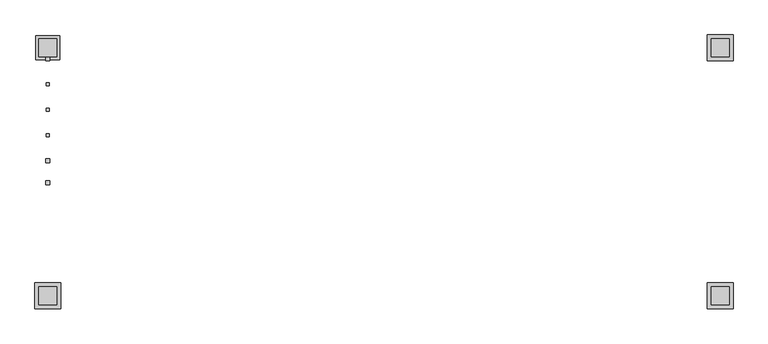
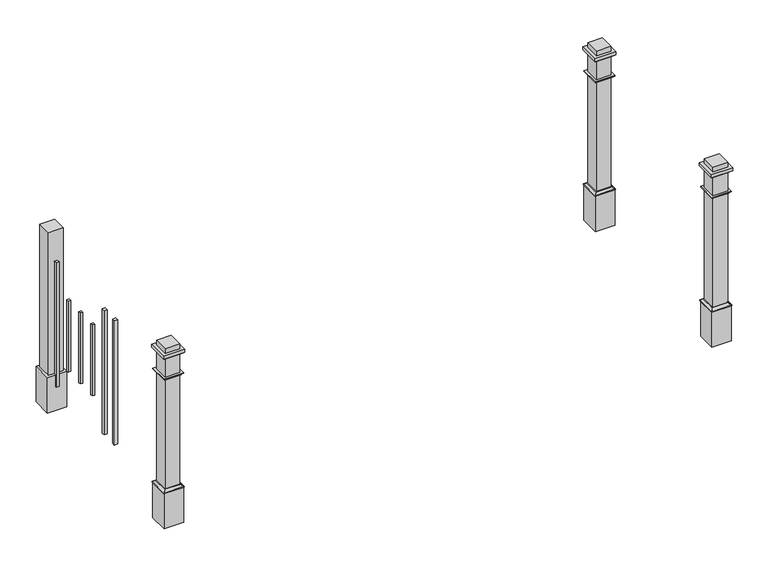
"""IFC4 building model written with IfcOpenShell, lengths in millimetres: railing geometry, Deco Type."""

from ifc_helpers import new_model, si_unit, frame, origin, origin_with_axes, place, context, project, spatial, polyline, ellipse_curve, outline, extrude, faceted_brep, source, transform, mapped, element, save
from ifc_brep_helpers import plane_surface, revolved_surface, advanced_brep


def railing_9e280cb1(model_context):
    return source(origin(), model_context, "Body", "SolidModel", [
        extrude(outline(polyline([(-11222.3625398, -8830.3466946), (-11196.9625398, -8830.3466946), (-11196.9625398, -8855.7466946), (-11222.3625398, -8855.7466946), (-11222.3625398, -8830.3466946)])), origin_with_axes(), (0.0, 0.0, 1.0), 1066.8),
        extrude(outline(polyline([(-11222.3625398, -8685.5106652), (-11196.9625398, -8685.5106652), (-11196.9625398, -8710.9106652), (-11222.3625398, -8710.9106652), (-11222.3625398, -8685.5106652)])), origin_with_axes(), (0.0, 0.0, 1.0), 1066.8),
        extrude(outline(polyline([(-11219.1875398, -8519.7102976), (-11200.1375398, -8519.7102976), (-11200.1375398, -8538.7602976), (-11219.1875398, -8538.7602976), (-11219.1875398, -8519.7102976)])), frame((0.0, 0.0, 228.6), z_axis=(0.0, 0.0, 1.0), x_axis=(1.0, 0.0, 0.0)), (0.0, 0.0, 1.0), 609.6),
        extrude(outline(polyline([(-11219.1875398, -8350.7349299), (-11200.1375398, -8350.7349299), (-11200.1375398, -8369.7849299), (-11219.1875398, -8369.7849299), (-11219.1875398, -8350.7349299)])), frame((0.0, 0.0, 228.6), z_axis=(0.0, 0.0, 1.0), x_axis=(1.0, 0.0, 0.0)), (0.0, 0.0, 1.0), 609.6),
        extrude(outline(polyline([(-11219.1875398, -8181.7595623), (-11200.1375398, -8181.7595623), (-11200.1375398, -8200.8095623), (-11219.1875398, -8200.8095623), (-11219.1875398, -8181.7595623)])), frame((0.0, 0.0, 228.6), z_axis=(0.0, 0.0, 1.0), x_axis=(1.0, 0.0, 0.0)), (0.0, 0.0, 1.0), 609.6),
        extrude(outline(polyline([(-11222.3625398, -8009.6091946), (-11196.9625398, -8009.6091946), (-11196.9625398, -8035.0091946), (-11222.3625398, -8035.0091946), (-11222.3625398, -8009.6091946)])), origin_with_axes(), (0.0, 0.0, 1.0), 1066.8),
        extrude(outline(polyline([(-6836.1000398, -9511.9911799), (-6677.3500398, -9511.9911799), (-6677.3500398, -9670.7411799), (-6836.1000398, -9670.7411799), (-6836.1000398, -9511.9911799)])), frame((0.0, 0.0, -203.2), z_axis=(0.0, 0.0, 1.0), x_axis=(1.0, 0.0, 0.0)), (0.0, 0.0, 1.0), 304.8),
        extrude(outline(polyline([(-6817.0500398, -9531.0411799), (-6696.4000398, -9531.0411799), (-6696.4000398, -9651.6911799), (-6817.0500398, -9651.6911799), (-6817.0500398, -9531.0411799)])), frame((0.0, 0.0, 101.6), z_axis=(0.0, 0.0, 1.0), x_axis=(1.0, 0.0, 0.0)), (0.0, 0.0, 1.0), 1225.55),
        extrude(outline(polyline([(-6842.4500398, -9677.0911799), (-6842.4500398, -9505.6411799), (-6671.0000398, -9505.6411799), (-6671.0000398, -9677.0911799), (-6842.4500398, -9677.0911799)]), holes=[polyline([(-6696.4000398, -9651.6911799), (-6696.4000398, -9531.0411799), (-6817.0500398, -9531.0411799), (-6817.0500398, -9651.6911799), (-6696.4000398, -9651.6911799)])]), frame((0.0, 0.0, 1260.475), z_axis=(0.0, 0.0, 1.0), x_axis=(1.0, 0.0, 0.0)), (0.0, 0.0, 1.0), 25.4),
        advanced_brep(
        [(-6817.0500398, -9651.6911799, 101.6), (-6817.0500398, -9651.6911799, 123.825), (-6696.4000398, -9651.6911799, 123.825), (-6696.4000398, -9651.6911799, 101.6), (-6839.2750398, -9673.9161799, 107.95), (-6839.2750398, -9673.9161799, 101.6), (-6674.1750398, -9673.9161799, 101.6), (-6674.1750398, -9673.9161799, 107.95), (-6823.4000398, -9658.0411799, 123.825), (-6690.0500398, -9658.0411799, 123.825), (-6696.4000398, -9531.0411799, 123.825), (-6696.4000398, -9531.0411799, 101.6), (-6674.1750398, -9508.8161799, 101.6), (-6674.1750398, -9508.8161799, 107.95), (-6690.0500398, -9524.6911799, 123.825), (-6817.0500398, -9531.0411799, 123.825), (-6817.0500398, -9531.0411799, 101.6), (-6839.2750398, -9508.8161799, 101.6), (-6839.2750398, -9508.8161799, 107.95), (-6823.4000398, -9524.6911799, 123.825)],
        [
            (0, 1),
            (1, 2),
            (2, 3),
            (3, 0),
            (4, 5),
            (5, 6),
            (6, 7),
            (7, 4),
            (8, 4, ellipse_curve(frame((-6839.2750398, -9673.9161799, 123.825), z_axis=(-0.7071067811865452, 0.7071067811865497, 0.0), x_axis=(0.7071067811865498, 0.7071067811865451, 0.0)), 22.4506403, 15.875)),
            (7, 9, ellipse_curve(frame((-6674.1750398, -9673.9161799, 123.825), z_axis=(0.7071067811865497, 0.7071067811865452, 0.0), x_axis=(0.7071067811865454, -0.7071067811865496, 0.0)), 22.4506403, 15.875)),
            (9, 8),
            (2, 10),
            (10, 11),
            (11, 3),
            (6, 12),
            (12, 13),
            (13, 7),
            (13, 14, ellipse_curve(frame((-6674.1750398, -9508.8161799, 123.825), z_axis=(-0.7071067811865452, 0.7071067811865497, 0.0), x_axis=(0.7071067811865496, 0.7071067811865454, 0.0)), 22.4506403, 15.875)),
            (14, 9),
            (10, 15),
            (15, 16),
            (16, 11),
            (12, 17),
            (17, 18),
            (18, 13),
            (18, 19, ellipse_curve(frame((-6839.2750398, -9508.8161799, 123.825), z_axis=(-0.7071067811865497, -0.7071067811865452, 0.0), x_axis=(-0.7071067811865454, 0.7071067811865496, 0.0)), 22.4506403, 15.875)),
            (19, 14),
            (15, 1),
            (0, 16),
            (5, 17),
            (4, 18),
            (8, 19),
        ],
        [
            plane_surface(frame((-6817.0500398, -9651.6911799, 123.825), z_axis=(0.0, 1.0, 0.0), x_axis=(1.0, 0.0, 0.0))),
            plane_surface(frame((-6839.2750398, -9673.9161799, 101.6), z_axis=(0.0, -1.0, 0.0), x_axis=(1.0, 0.0, 0.0))),
            revolved_surface(polyline([(-6658.30003980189, -9658.0411799, 123.825), (-6855.15003979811, -9658.0411799, 123.825)]), (-6817.0500398, -9673.9161799, 123.825), (1.0, 0.0, 0.0)),
            plane_surface(frame((-6696.4000398, -9651.6911799, 123.825), z_axis=(-1.0, 0.0, 0.0), x_axis=(0.0, 1.0, 0.0))),
            plane_surface(frame((-6674.1750398, -9673.9161799, 101.6), z_axis=(1.0, 0.0, 0.0), x_axis=(0.0, 1.0, 0.0))),
            revolved_surface(polyline([(-6690.0500398, -9492.94117990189, 123.825), (-6690.0500398, -9689.79117989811, 123.825)]), (-6674.1750398, -9651.6911799, 123.825), (0.0, 1.0, 0.0)),
            plane_surface(frame((-6696.4000398, -9531.0411799, 123.825), z_axis=(0.0, -1.0, 0.0), x_axis=(-1.0, 0.0, 0.0))),
            plane_surface(frame((-6674.1750398, -9508.8161799, 101.6), z_axis=(0.0, 1.0, 0.0), x_axis=(-1.0, 0.0, 0.0))),
            revolved_surface(polyline([(-6855.15003979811, -9524.6911799, 123.825), (-6658.30003980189, -9524.6911799, 123.825)]), (-6696.4000398, -9508.8161799, 123.825), (-1.0, 0.0, 0.0)),
            plane_surface(frame((-6817.0500398, -9531.0411799, 123.825), z_axis=(1.0, 0.0, 0.0), x_axis=(0.0, -1.0, 0.0))),
            plane_surface(frame((-6817.0500398, -9531.0411799, 101.6), z_axis=(0.0, 0.0, -1.0), x_axis=(0.0, -1.0, 0.0))),
            plane_surface(frame((-6839.2750398, -9508.8161799, 101.6), z_axis=(-1.0, 0.0, 0.0), x_axis=(0.0, -1.0, 0.0))),
            revolved_surface(polyline([(-6823.4000398, -9689.79117989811, 123.825), (-6823.4000398, -9492.94117990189, 123.825)]), (-6839.2750398, -9531.0411799, 123.825), (0.0, -1.0, 0.0)),
            plane_surface(frame((-6823.4000398, -9524.6911799, 123.825), z_axis=(0.0, 0.0, 1.0), x_axis=(0.0, -1.0, 0.0))),
        ],
        [
            (0, [[1, 2, 3, 4]]),
            (1, [[5, 6, 7, 8]]),
            (2, [[9, -8, 10, 11]]),
            (3, [[-3, 12, 13, 14]]),
            (4, [[-7, 15, 16, 17]]),
            (5, [[-10, -17, 18, 19]]),
            (6, [[-13, 20, 21, 22]]),
            (7, [[-16, 23, 24, 25]]),
            (8, [[-18, -25, 26, 27]]),
            (9, [[-21, 28, -1, 29]]),
            (10, [[30, -23, -15, -6], [-14, -22, -29, -4]]),
            (11, [[-24, -30, -5, 31]]),
            (12, [[-26, -31, -9, 32]]),
            (13, [[-19, -27, -32, -11], [-28, -20, -12, -2]]),
        ],
    ),
        advanced_brep(
        [(-6817.0500398, -9651.6911799, 1063.625), (-6817.0500398, -9651.6911799, 1082.675), (-6696.4000398, -9651.6911799, 1082.675), (-6696.4000398, -9651.6911799, 1063.625), (-6836.1000398, -9670.7411799, 1076.325), (-6823.4000398, -9658.0411799, 1063.625), (-6690.0500398, -9658.0411799, 1063.625), (-6677.3500398, -9670.7411799, 1076.325), (-6836.1000398, -9670.7411799, 1082.675), (-6677.3500398, -9670.7411799, 1082.675), (-6696.4000398, -9531.0411799, 1082.675), (-6696.4000398, -9531.0411799, 1063.625), (-6690.0500398, -9524.6911799, 1063.625), (-6677.3500398, -9511.9911799, 1076.325), (-6677.3500398, -9511.9911799, 1082.675), (-6817.0500398, -9531.0411799, 1082.675), (-6817.0500398, -9531.0411799, 1063.625), (-6823.4000398, -9524.6911799, 1063.625), (-6836.1000398, -9511.9911799, 1076.325), (-6836.1000398, -9511.9911799, 1082.675)],
        [
            (0, 1),
            (1, 2),
            (2, 3),
            (3, 0),
            (4, 5, ellipse_curve(frame((-6836.1000398, -9670.7411799, 1063.625), z_axis=(-0.7071067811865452, 0.7071067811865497, 0.0), x_axis=(0.7071067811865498, 0.7071067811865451, 0.0)), 17.9605122, 12.7)),
            (5, 6),
            (6, 7, ellipse_curve(frame((-6677.3500398, -9670.7411799, 1063.625), z_axis=(0.7071067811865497, 0.7071067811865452, 0.0), x_axis=(0.7071067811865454, -0.7071067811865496, 0.0)), 17.9605122, 12.7)),
            (7, 4),
            (8, 4),
            (7, 9),
            (9, 8),
            (2, 10),
            (10, 11),
            (11, 3),
            (6, 12),
            (12, 13, ellipse_curve(frame((-6677.3500398, -9511.9911799, 1063.625), z_axis=(-0.7071067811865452, 0.7071067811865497, 0.0), x_axis=(0.7071067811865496, 0.7071067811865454, 0.0)), 17.9605122, 12.7)),
            (13, 7),
            (13, 14),
            (14, 9),
            (10, 15),
            (15, 16),
            (16, 11),
            (12, 17),
            (17, 18, ellipse_curve(frame((-6836.1000398, -9511.9911799, 1063.625), z_axis=(-0.7071067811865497, -0.7071067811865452, 0.0), x_axis=(-0.7071067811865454, 0.7071067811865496, 0.0)), 17.9605122, 12.7)),
            (18, 13),
            (18, 19),
            (19, 14),
            (19, 8),
            (1, 15),
            (0, 16),
            (5, 17),
            (4, 18),
        ],
        [
            plane_surface(frame((-6817.0500398, -9651.6911799, 1082.675), z_axis=(0.0, 1.0, 0.0), x_axis=(1.0, 0.0, 0.0))),
            revolved_surface(polyline([(-6664.650039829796, -9658.0411799, 1063.625), (-6848.8000397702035, -9658.0411799, 1063.625)]), (-6817.0500398, -9670.7411799, 1063.625), (1.0, 0.0, 0.0)),
            plane_surface(frame((-6836.1000398, -9670.7411799, 1076.325), z_axis=(0.0, -1.0, 0.0), x_axis=(1.0, 0.0, 0.0))),
            plane_surface(frame((-6696.4000398, -9651.6911799, 1082.675), z_axis=(-1.0, 0.0, 0.0), x_axis=(0.0, 1.0, 0.0))),
            revolved_surface(polyline([(-6690.0500397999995, -9499.291179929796, 1063.625), (-6690.0500397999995, -9683.441179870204, 1063.625)]), (-6677.3500398, -9651.6911799, 1063.625), (0.0, 1.0, 0.0)),
            plane_surface(frame((-6677.3500398, -9670.7411799, 1076.325), z_axis=(1.0, 0.0, 0.0), x_axis=(0.0, 1.0, 0.0))),
            plane_surface(frame((-6696.4000398, -9531.0411799, 1082.675), z_axis=(0.0, -1.0, 0.0), x_axis=(-1.0, 0.0, 0.0))),
            revolved_surface(polyline([(-6848.8000397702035, -9524.6911799, 1063.625), (-6664.650039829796, -9524.6911799, 1063.625)]), (-6696.4000398, -9511.9911799, 1063.625), (-1.0, 0.0, 0.0)),
            plane_surface(frame((-6677.3500398, -9511.9911799, 1076.325), z_axis=(0.0, 1.0, 0.0), x_axis=(-1.0, 0.0, 0.0))),
            plane_surface(frame((-6836.1000398, -9511.9911799, 1082.675), z_axis=(0.0, 0.0, 1.0), x_axis=(0.0, -1.0, 0.0))),
            plane_surface(frame((-6817.0500398, -9531.0411799, 1082.675), z_axis=(1.0, 0.0, 0.0), x_axis=(0.0, -1.0, 0.0))),
            plane_surface(frame((-6817.0500398, -9531.0411799, 1063.625), z_axis=(0.0, 0.0, -1.0), x_axis=(0.0, -1.0, 0.0))),
            revolved_surface(polyline([(-6823.4000398, -9683.441179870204, 1063.625), (-6823.4000398, -9499.291179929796, 1063.625)]), (-6836.1000398, -9531.0411799, 1063.625), (0.0, -1.0, 0.0)),
            plane_surface(frame((-6836.1000398, -9511.9911799, 1076.325), z_axis=(-1.0, 0.0, 0.0), x_axis=(0.0, -1.0, 0.0))),
        ],
        [
            (0, [[1, 2, 3, 4]]),
            (1, [[5, 6, 7, 8]]),
            (2, [[9, -8, 10, 11]]),
            (3, [[-3, 12, 13, 14]]),
            (4, [[-7, 15, 16, 17]]),
            (5, [[-10, -17, 18, 19]]),
            (6, [[-13, 20, 21, 22]]),
            (7, [[-16, 23, 24, 25]]),
            (8, [[-18, -25, 26, 27]]),
            (9, [[-19, -27, 28, -11], [29, -20, -12, -2]]),
            (10, [[-21, -29, -1, 30]]),
            (11, [[31, -23, -15, -6], [-14, -22, -30, -4]]),
            (12, [[-24, -31, -5, 32]]),
            (13, [[-26, -32, -9, -28]]),
        ],
    ),
        faceted_brep([(-6817.0500398, -9651.6911799, 1241.425), (-6817.0500398, -9651.6911799, 1260.475), (-6696.4000398, -9651.6911799, 1260.475), (-6696.4000398, -9651.6911799, 1241.425), (-6823.4000398, -9658.0411799, 1254.125), (-6823.4000398, -9658.0411799, 1241.425), (-6690.0500398, -9658.0411799, 1241.425), (-6690.0500398, -9658.0411799, 1254.125), (-6836.1000398, -9670.7411799, 1260.475), (-6836.1000398, -9670.7411799, 1254.125), (-6677.3500398, -9670.7411799, 1254.125), (-6677.3500398, -9670.7411799, 1260.475), (-6696.4000398, -9531.0411799, 1260.475), (-6696.4000398, -9531.0411799, 1241.425), (-6690.0500398, -9524.6911799, 1241.425), (-6690.0500398, -9524.6911799, 1254.125), (-6677.3500398, -9511.9911799, 1254.125), (-6677.3500398, -9511.9911799, 1260.475), (-6817.0500398, -9531.0411799, 1260.475), (-6817.0500398, -9531.0411799, 1241.425), (-6823.4000398, -9524.6911799, 1241.425), (-6823.4000398, -9524.6911799, 1254.125), (-6836.1000398, -9511.9911799, 1254.125), (-6836.1000398, -9511.9911799, 1260.475)], [[[0, 1, 2, 3]], [[4, 5, 6, 7]], [[8, 9, 10, 11]], [[3, 2, 12, 13]], [[7, 6, 14, 15]], [[11, 10, 16, 17]], [[13, 12, 18, 19]], [[15, 14, 20, 21]], [[17, 16, 22, 23]], [[19, 18, 1, 0]], [[5, 20, 14, 6], [3, 13, 19, 0]], [[21, 20, 5, 4]], [[9, 22, 16, 10], [7, 15, 21, 4]], [[23, 22, 9, 8]], [[11, 17, 23, 8], [1, 18, 12, 2]]]),
        extrude(outline(polyline([(-11130.2875398, -9511.9911799), (-11130.2875398, -9670.7411799), (-11289.0375398, -9670.7411799), (-11289.0375398, -9511.9911799), (-11130.2875398, -9511.9911799)])), frame((0.0, 0.0, -203.2), z_axis=(0.0, 0.0, 1.0), x_axis=(1.0, 0.0, 0.0)), (0.0, 0.0, 1.0), 304.8),
        extrude(outline(polyline([(-11149.3375398, -9531.0411799), (-11149.3375398, -9651.6911799), (-11269.9875398, -9651.6911799), (-11269.9875398, -9531.0411799), (-11149.3375398, -9531.0411799)])), frame((0.0, 0.0, 101.6), z_axis=(0.0, 0.0, 1.0), x_axis=(1.0, 0.0, 0.0)), (0.0, 0.0, 1.0), 1225.55),
        extrude(outline(polyline([(-11295.3875398, -9505.6411799), (-11123.9375398, -9505.6411799), (-11123.9375398, -9677.0911799), (-11295.3875398, -9677.0911799), (-11295.3875398, -9505.6411799)]), holes=[polyline([(-11269.9875398, -9651.6911799), (-11149.3375398, -9651.6911799), (-11149.3375398, -9531.0411799), (-11269.9875398, -9531.0411799), (-11269.9875398, -9651.6911799)])]), frame((0.0, 0.0, 1260.475), z_axis=(0.0, 0.0, 1.0), x_axis=(1.0, 0.0, 0.0)), (0.0, 0.0, 1.0), 25.4),
        advanced_brep(
        [(-11269.9875398, -9531.0411799, 101.6), (-11269.9875398, -9531.0411799, 123.825), (-11269.9875398, -9651.6911799, 123.825), (-11269.9875398, -9651.6911799, 101.6), (-11292.2125398, -9508.8161799, 107.95), (-11292.2125398, -9508.8161799, 101.6), (-11292.2125398, -9673.9161799, 101.6), (-11292.2125398, -9673.9161799, 107.95), (-11276.3375398, -9524.6911799, 123.825), (-11276.3375398, -9658.0411799, 123.825), (-11149.3375398, -9651.6911799, 123.825), (-11149.3375398, -9651.6911799, 101.6), (-11127.1125398, -9673.9161799, 101.6), (-11127.1125398, -9673.9161799, 107.95), (-11142.9875398, -9658.0411799, 123.825), (-11149.3375398, -9531.0411799, 123.825), (-11149.3375398, -9531.0411799, 101.6), (-11127.1125398, -9508.8161799, 101.6), (-11127.1125398, -9508.8161799, 107.95), (-11142.9875398, -9524.6911799, 123.825)],
        [
            (0, 1),
            (1, 2),
            (2, 3),
            (3, 0),
            (4, 5),
            (5, 6),
            (6, 7),
            (7, 4),
            (8, 4, ellipse_curve(frame((-11292.2125398, -9508.8161799, 123.825), z_axis=(0.7071067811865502, 0.7071067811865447, 0.0), x_axis=(0.7071067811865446, -0.7071067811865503, 0.0)), 22.4506403, 15.875)),
            (7, 9, ellipse_curve(frame((-11292.2125398, -9673.9161799, 123.825), z_axis=(0.7071067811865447, -0.7071067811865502, 0.0), x_axis=(-0.7071067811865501, -0.7071067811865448, 0.0)), 22.4506403, 15.875)),
            (9, 8),
            (2, 10),
            (10, 11),
            (11, 3),
            (6, 12),
            (12, 13),
            (13, 7),
            (13, 14, ellipse_curve(frame((-11127.1125398, -9673.9161799, 123.825), z_axis=(0.7071067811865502, 0.7071067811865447, 0.0), x_axis=(0.7071067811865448, -0.7071067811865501, 0.0)), 22.4506403, 15.875)),
            (14, 9),
            (10, 15),
            (15, 16),
            (16, 11),
            (12, 17),
            (17, 18),
            (18, 13),
            (18, 19, ellipse_curve(frame((-11127.1125398, -9508.8161799, 123.825), z_axis=(-0.7071067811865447, 0.7071067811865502, 0.0), x_axis=(0.7071067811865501, 0.7071067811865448, 0.0)), 22.4506403, 15.875)),
            (19, 14),
            (15, 1),
            (0, 16),
            (5, 17),
            (4, 18),
            (8, 19),
        ],
        [
            plane_surface(frame((-11269.9875398, -9531.0411799, 123.825), z_axis=(1.0, 0.0, 0.0), x_axis=(0.0, -1.0, 0.0))),
            plane_surface(frame((-11292.2125398, -9508.8161799, 101.6), z_axis=(-1.0, 0.0, 0.0), x_axis=(0.0, -1.0, 0.0))),
            revolved_surface(polyline([(-11276.3375398, -9689.79117989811, 123.825), (-11276.3375398, -9492.94117990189, 123.825)]), (-11292.2125398, -9531.0411799, 123.825), (0.0, -1.0, 0.0)),
            plane_surface(frame((-11269.9875398, -9651.6911799, 123.825), z_axis=(0.0, 1.0, 0.0), x_axis=(1.0, 0.0, 0.0))),
            plane_surface(frame((-11292.2125398, -9673.9161799, 101.6), z_axis=(0.0, -1.0, 0.0), x_axis=(1.0, 0.0, 0.0))),
            revolved_surface(polyline([(-11111.23753980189, -9658.0411799, 123.825), (-11308.08753979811, -9658.0411799, 123.825)]), (-11269.9875398, -9673.9161799, 123.825), (1.0, 0.0, 0.0)),
            plane_surface(frame((-11149.3375398, -9651.6911799, 123.825), z_axis=(-1.0, 0.0, 0.0), x_axis=(0.0, 1.0, 0.0))),
            plane_surface(frame((-11127.1125398, -9673.9161799, 101.6), z_axis=(1.0, 0.0, 0.0), x_axis=(0.0, 1.0, 0.0))),
            revolved_surface(polyline([(-11142.9875398, -9492.94117990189, 123.825), (-11142.9875398, -9689.79117989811, 123.825)]), (-11127.1125398, -9651.6911799, 123.825), (0.0, 1.0, 0.0)),
            plane_surface(frame((-11149.3375398, -9531.0411799, 123.825), z_axis=(0.0, -1.0, 0.0), x_axis=(-1.0, 0.0, 0.0))),
            plane_surface(frame((-11149.3375398, -9531.0411799, 101.6), z_axis=(0.0, 0.0, -1.0), x_axis=(-1.0, 0.0, 0.0))),
            plane_surface(frame((-11127.1125398, -9508.8161799, 101.6), z_axis=(0.0, 1.0, 0.0), x_axis=(-1.0, 0.0, 0.0))),
            revolved_surface(polyline([(-11308.08753979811, -9524.6911799, 123.825), (-11111.23753980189, -9524.6911799, 123.825)]), (-11149.3375398, -9508.8161799, 123.825), (-1.0, 0.0, 0.0)),
            plane_surface(frame((-11142.9875398, -9524.6911799, 123.825), z_axis=(0.0, 0.0, 1.0), x_axis=(-1.0, 0.0, 0.0))),
        ],
        [
            (0, [[1, 2, 3, 4]]),
            (1, [[5, 6, 7, 8]]),
            (2, [[9, -8, 10, 11]]),
            (3, [[-3, 12, 13, 14]]),
            (4, [[-7, 15, 16, 17]]),
            (5, [[-10, -17, 18, 19]]),
            (6, [[-13, 20, 21, 22]]),
            (7, [[-16, 23, 24, 25]]),
            (8, [[-18, -25, 26, 27]]),
            (9, [[-21, 28, -1, 29]]),
            (10, [[30, -23, -15, -6], [-14, -22, -29, -4]]),
            (11, [[-24, -30, -5, 31]]),
            (12, [[-26, -31, -9, 32]]),
            (13, [[-19, -27, -32, -11], [-28, -20, -12, -2]]),
        ],
    ),
        advanced_brep(
        [(-11269.9875398, -9531.0411799, 1063.625), (-11269.9875398, -9531.0411799, 1082.675), (-11269.9875398, -9651.6911799, 1082.675), (-11269.9875398, -9651.6911799, 1063.625), (-11289.0375398, -9511.9911799, 1076.325), (-11276.3375398, -9524.6911799, 1063.625), (-11276.3375398, -9658.0411799, 1063.625), (-11289.0375398, -9670.7411799, 1076.325), (-11289.0375398, -9511.9911799, 1082.675), (-11289.0375398, -9670.7411799, 1082.675), (-11149.3375398, -9651.6911799, 1082.675), (-11149.3375398, -9651.6911799, 1063.625), (-11142.9875398, -9658.0411799, 1063.625), (-11130.2875398, -9670.7411799, 1076.325), (-11130.2875398, -9670.7411799, 1082.675), (-11149.3375398, -9531.0411799, 1082.675), (-11149.3375398, -9531.0411799, 1063.625), (-11142.9875398, -9524.6911799, 1063.625), (-11130.2875398, -9511.9911799, 1076.325), (-11130.2875398, -9511.9911799, 1082.675)],
        [
            (0, 1),
            (1, 2),
            (2, 3),
            (3, 0),
            (4, 5, ellipse_curve(frame((-11289.0375398, -9511.9911799, 1063.625), z_axis=(0.7071067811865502, 0.7071067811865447, 0.0), x_axis=(0.7071067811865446, -0.7071067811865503, 0.0)), 17.9605122, 12.7)),
            (5, 6),
            (6, 7, ellipse_curve(frame((-11289.0375398, -9670.7411799, 1063.625), z_axis=(0.7071067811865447, -0.7071067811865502, 0.0), x_axis=(-0.7071067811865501, -0.7071067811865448, 0.0)), 17.9605122, 12.7)),
            (7, 4),
            (8, 4),
            (7, 9),
            (9, 8),
            (2, 10),
            (10, 11),
            (11, 3),
            (6, 12),
            (12, 13, ellipse_curve(frame((-11130.2875398, -9670.7411799, 1063.625), z_axis=(0.7071067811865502, 0.7071067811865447, 0.0), x_axis=(0.7071067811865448, -0.7071067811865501, 0.0)), 17.9605122, 12.7)),
            (13, 7),
            (13, 14),
            (14, 9),
            (10, 15),
            (15, 16),
            (16, 11),
            (12, 17),
            (17, 18, ellipse_curve(frame((-11130.2875398, -9511.9911799, 1063.625), z_axis=(-0.7071067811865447, 0.7071067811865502, 0.0), x_axis=(0.7071067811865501, 0.7071067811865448, 0.0)), 17.9605122, 12.7)),
            (18, 13),
            (18, 19),
            (19, 14),
            (19, 8),
            (1, 15),
            (0, 16),
            (5, 17),
            (4, 18),
        ],
        [
            plane_surface(frame((-11269.9875398, -9531.0411799, 1082.675), z_axis=(1.0, 0.0, 0.0), x_axis=(0.0, -1.0, 0.0))),
            revolved_surface(polyline([(-11276.337539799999, -9683.441179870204, 1063.625), (-11276.337539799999, -9499.291179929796, 1063.625)]), (-11289.0375398, -9531.0411799, 1063.625), (0.0, -1.0, 0.0)),
            plane_surface(frame((-11289.0375398, -9511.9911799, 1076.325), z_axis=(-1.0, 0.0, 0.0), x_axis=(0.0, -1.0, 0.0))),
            plane_surface(frame((-11269.9875398, -9651.6911799, 1082.675), z_axis=(0.0, 1.0, 0.0), x_axis=(1.0, 0.0, 0.0))),
            revolved_surface(polyline([(-11117.587539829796, -9658.0411799, 1063.625), (-11301.737539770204, -9658.0411799, 1063.625)]), (-11269.9875398, -9670.7411799, 1063.625), (1.0, 0.0, 0.0)),
            plane_surface(frame((-11289.0375398, -9670.7411799, 1076.325), z_axis=(0.0, -1.0, 0.0), x_axis=(1.0, 0.0, 0.0))),
            plane_surface(frame((-11149.3375398, -9651.6911799, 1082.675), z_axis=(-1.0, 0.0, 0.0), x_axis=(0.0, 1.0, 0.0))),
            revolved_surface(polyline([(-11142.9875398, -9499.291179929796, 1063.625), (-11142.9875398, -9683.441179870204, 1063.625)]), (-11130.2875398, -9651.6911799, 1063.625), (0.0, 1.0, 0.0)),
            plane_surface(frame((-11130.2875398, -9670.7411799, 1076.325), z_axis=(1.0, 0.0, 0.0), x_axis=(0.0, 1.0, 0.0))),
            plane_surface(frame((-11130.2875398, -9511.9911799, 1082.675), z_axis=(0.0, 0.0, 1.0), x_axis=(-1.0, 0.0, 0.0))),
            plane_surface(frame((-11149.3375398, -9531.0411799, 1082.675), z_axis=(0.0, -1.0, 0.0), x_axis=(-1.0, 0.0, 0.0))),
            plane_surface(frame((-11149.3375398, -9531.0411799, 1063.625), z_axis=(0.0, 0.0, -1.0), x_axis=(-1.0, 0.0, 0.0))),
            revolved_surface(polyline([(-11301.737539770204, -9524.6911799, 1063.625), (-11117.587539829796, -9524.6911799, 1063.625)]), (-11149.3375398, -9511.9911799, 1063.625), (-1.0, 0.0, 0.0)),
            plane_surface(frame((-11130.2875398, -9511.9911799, 1076.325), z_axis=(0.0, 1.0, 0.0), x_axis=(-1.0, 0.0, 0.0))),
        ],
        [
            (0, [[1, 2, 3, 4]]),
            (1, [[5, 6, 7, 8]]),
            (2, [[9, -8, 10, 11]]),
            (3, [[-3, 12, 13, 14]]),
            (4, [[-7, 15, 16, 17]]),
            (5, [[-10, -17, 18, 19]]),
            (6, [[-13, 20, 21, 22]]),
            (7, [[-16, 23, 24, 25]]),
            (8, [[-18, -25, 26, 27]]),
            (9, [[-19, -27, 28, -11], [29, -20, -12, -2]]),
            (10, [[-21, -29, -1, 30]]),
            (11, [[31, -23, -15, -6], [-14, -22, -30, -4]]),
            (12, [[-24, -31, -5, 32]]),
            (13, [[-26, -32, -9, -28]]),
        ],
    ),
        faceted_brep([(-11269.9875398, -9531.0411799, 1241.425), (-11269.9875398, -9531.0411799, 1260.475), (-11269.9875398, -9651.6911799, 1260.475), (-11269.9875398, -9651.6911799, 1241.425), (-11276.3375398, -9524.6911799, 1254.125), (-11276.3375398, -9524.6911799, 1241.425), (-11276.3375398, -9658.0411799, 1241.425), (-11276.3375398, -9658.0411799, 1254.125), (-11289.0375398, -9511.9911799, 1260.475), (-11289.0375398, -9511.9911799, 1254.125), (-11289.0375398, -9670.7411799, 1254.125), (-11289.0375398, -9670.7411799, 1260.475), (-11149.3375398, -9651.6911799, 1260.475), (-11149.3375398, -9651.6911799, 1241.425), (-11142.9875398, -9658.0411799, 1241.425), (-11142.9875398, -9658.0411799, 1254.125), (-11130.2875398, -9670.7411799, 1254.125), (-11130.2875398, -9670.7411799, 1260.475), (-11149.3375398, -9531.0411799, 1260.475), (-11149.3375398, -9531.0411799, 1241.425), (-11142.9875398, -9524.6911799, 1241.425), (-11142.9875398, -9524.6911799, 1254.125), (-11130.2875398, -9511.9911799, 1254.125), (-11130.2875398, -9511.9911799, 1260.475)], [[[0, 1, 2, 3]], [[4, 5, 6, 7]], [[8, 9, 10, 11]], [[3, 2, 12, 13]], [[7, 6, 14, 15]], [[11, 10, 16, 17]], [[13, 12, 18, 19]], [[15, 14, 20, 21]], [[17, 16, 22, 23]], [[19, 18, 1, 0]], [[5, 20, 14, 6], [3, 13, 19, 0]], [[21, 20, 5, 4]], [[9, 22, 16, 10], [7, 15, 21, 4]], [[23, 22, 9, 8]], [[11, 17, 23, 8], [1, 18, 12, 2]]]),
        extrude(outline(polyline([(-6836.1000398, -8029.2661799), (-6836.1000398, -7870.5161799), (-6677.3500398, -7870.5161799), (-6677.3500398, -8029.2661799), (-6836.1000398, -8029.2661799)])), frame((0.0, 0.0, -203.2), z_axis=(0.0, 0.0, 1.0), x_axis=(1.0, 0.0, 0.0)), (0.0, 0.0, 1.0), 304.8),
        extrude(outline(polyline([(-6817.0500398, -8010.2161799), (-6817.0500398, -7889.5661799), (-6696.4000398, -7889.5661799), (-6696.4000398, -8010.2161799), (-6817.0500398, -8010.2161799)])), frame((0.0, 0.0, 101.6), z_axis=(0.0, 0.0, 1.0), x_axis=(1.0, 0.0, 0.0)), (0.0, 0.0, 1.0), 1225.55),
        extrude(outline(polyline([(-6671.0000398, -8035.6161799), (-6842.4500398, -8035.6161799), (-6842.4500398, -7864.1661799), (-6671.0000398, -7864.1661799), (-6671.0000398, -8035.6161799)]), holes=[polyline([(-6696.4000398, -7889.5661799), (-6817.0500398, -7889.5661799), (-6817.0500398, -8010.2161799), (-6696.4000398, -8010.2161799), (-6696.4000398, -7889.5661799)])]), frame((0.0, 0.0, 1260.475), z_axis=(0.0, 0.0, 1.0), x_axis=(1.0, 0.0, 0.0)), (0.0, 0.0, 1.0), 25.4),
        advanced_brep(
        [(-6696.4000398, -8010.2161799, 101.6), (-6696.4000398, -8010.2161799, 123.825), (-6696.4000398, -7889.5661799, 123.825), (-6696.4000398, -7889.5661799, 101.6), (-6674.1750398, -8032.4411799, 107.95), (-6674.1750398, -8032.4411799, 101.6), (-6674.1750398, -7867.3411799, 101.6), (-6674.1750398, -7867.3411799, 107.95), (-6690.0500398, -8016.5661799, 123.825), (-6690.0500398, -7883.2161799, 123.825), (-6817.0500398, -7889.5661799, 123.825), (-6817.0500398, -7889.5661799, 101.6), (-6839.2750398, -7867.3411799, 101.6), (-6839.2750398, -7867.3411799, 107.95), (-6823.4000398, -7883.2161799, 123.825), (-6817.0500398, -8010.2161799, 123.825), (-6817.0500398, -8010.2161799, 101.6), (-6839.2750398, -8032.4411799, 101.6), (-6839.2750398, -8032.4411799, 107.95), (-6823.4000398, -8016.5661799, 123.825)],
        [
            (0, 1),
            (1, 2),
            (2, 3),
            (3, 0),
            (4, 5),
            (5, 6),
            (6, 7),
            (7, 4),
            (8, 4, ellipse_curve(frame((-6674.1750398, -8032.4411799, 123.825), z_axis=(-0.7071067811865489, -0.707106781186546, 0.0), x_axis=(-0.7071067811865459, 0.707106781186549, 0.0)), 22.4506403, 15.875)),
            (7, 9, ellipse_curve(frame((-6674.1750398, -7867.3411799, 123.825), z_axis=(-0.707106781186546, 0.7071067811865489, 0.0), x_axis=(0.7071067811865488, 0.7071067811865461, 0.0)), 22.4506403, 15.875)),
            (9, 8),
            (2, 10),
            (10, 11),
            (11, 3),
            (6, 12),
            (12, 13),
            (13, 7),
            (13, 14, ellipse_curve(frame((-6839.2750398, -7867.3411799, 123.825), z_axis=(-0.7071067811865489, -0.707106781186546, 0.0), x_axis=(-0.7071067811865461, 0.7071067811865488, 0.0)), 22.4506403, 15.875)),
            (14, 9),
            (10, 15),
            (15, 16),
            (16, 11),
            (12, 17),
            (17, 18),
            (18, 13),
            (18, 19, ellipse_curve(frame((-6839.2750398, -8032.4411799, 123.825), z_axis=(0.707106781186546, -0.7071067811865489, 0.0), x_axis=(-0.7071067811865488, -0.7071067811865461, 0.0)), 22.4506403, 15.875)),
            (19, 14),
            (15, 1),
            (0, 16),
            (5, 17),
            (4, 18),
            (8, 19),
        ],
        [
            plane_surface(frame((-6696.4000398, -8010.2161799, 123.825), z_axis=(-1.0, 0.0, 0.0), x_axis=(0.0, 1.0, 0.0))),
            plane_surface(frame((-6674.1750398, -8032.4411799, 101.6), z_axis=(1.0, 0.0, 0.0), x_axis=(0.0, 1.0, 0.0))),
            revolved_surface(polyline([(-6690.0500398, -7851.4661799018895, 123.825), (-6690.0500398, -8048.31617989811, 123.825)]), (-6674.1750398, -8010.2161799, 123.825), (0.0, 1.0, 0.0)),
            plane_surface(frame((-6696.4000398, -7889.5661799, 123.825), z_axis=(0.0, -1.0, 0.0), x_axis=(-1.0, 0.0, 0.0))),
            plane_surface(frame((-6674.1750398, -7867.3411799, 101.6), z_axis=(0.0, 1.0, 0.0), x_axis=(-1.0, 0.0, 0.0))),
            revolved_surface(polyline([(-6855.15003979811, -7883.2161799, 123.825), (-6658.30003980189, -7883.2161799, 123.825)]), (-6696.4000398, -7867.3411799, 123.825), (-1.0, 0.0, 0.0)),
            plane_surface(frame((-6817.0500398, -7889.5661799, 123.825), z_axis=(1.0, 0.0, 0.0), x_axis=(0.0, -1.0, 0.0))),
            plane_surface(frame((-6839.2750398, -7867.3411799, 101.6), z_axis=(-1.0, 0.0, 0.0), x_axis=(0.0, -1.0, 0.0))),
            revolved_surface(polyline([(-6823.4000398, -8048.31617989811, 123.825), (-6823.4000398, -7851.4661799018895, 123.825)]), (-6839.2750398, -7889.5661799, 123.825), (0.0, -1.0, 0.0)),
            plane_surface(frame((-6817.0500398, -8010.2161799, 123.825), z_axis=(0.0, 1.0, 0.0), x_axis=(1.0, 0.0, 0.0))),
            plane_surface(frame((-6817.0500398, -8010.2161799, 101.6), z_axis=(0.0, 0.0, -1.0), x_axis=(1.0, 0.0, 0.0))),
            plane_surface(frame((-6839.2750398, -8032.4411799, 101.6), z_axis=(0.0, -1.0, 0.0), x_axis=(1.0, 0.0, 0.0))),
            revolved_surface(polyline([(-6658.30003980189, -8016.5661799, 123.825), (-6855.15003979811, -8016.5661799, 123.825)]), (-6817.0500398, -8032.4411799, 123.825), (1.0, 0.0, 0.0)),
            plane_surface(frame((-6823.4000398, -8016.5661799, 123.825), z_axis=(0.0, 0.0, 1.0), x_axis=(1.0, 0.0, 0.0))),
        ],
        [
            (0, [[1, 2, 3, 4]]),
            (1, [[5, 6, 7, 8]]),
            (2, [[9, -8, 10, 11]]),
            (3, [[-3, 12, 13, 14]]),
            (4, [[-7, 15, 16, 17]]),
            (5, [[-10, -17, 18, 19]]),
            (6, [[-13, 20, 21, 22]]),
            (7, [[-16, 23, 24, 25]]),
            (8, [[-18, -25, 26, 27]]),
            (9, [[-21, 28, -1, 29]]),
            (10, [[30, -23, -15, -6], [-14, -22, -29, -4]]),
            (11, [[-24, -30, -5, 31]]),
            (12, [[-26, -31, -9, 32]]),
            (13, [[-19, -27, -32, -11], [-28, -20, -12, -2]]),
        ],
    ),
        advanced_brep(
        [(-6696.4000398, -8010.2161799, 1063.625), (-6696.4000398, -8010.2161799, 1082.675), (-6696.4000398, -7889.5661799, 1082.675), (-6696.4000398, -7889.5661799, 1063.625), (-6677.3500398, -8029.2661799, 1076.325), (-6690.0500398, -8016.5661799, 1063.625), (-6690.0500398, -7883.2161799, 1063.625), (-6677.3500398, -7870.5161799, 1076.325), (-6677.3500398, -8029.2661799, 1082.675), (-6677.3500398, -7870.5161799, 1082.675), (-6817.0500398, -7889.5661799, 1082.675), (-6817.0500398, -7889.5661799, 1063.625), (-6823.4000398, -7883.2161799, 1063.625), (-6836.1000398, -7870.5161799, 1076.325), (-6836.1000398, -7870.5161799, 1082.675), (-6817.0500398, -8010.2161799, 1082.675), (-6817.0500398, -8010.2161799, 1063.625), (-6823.4000398, -8016.5661799, 1063.625), (-6836.1000398, -8029.2661799, 1076.325), (-6836.1000398, -8029.2661799, 1082.675)],
        [
            (0, 1),
            (1, 2),
            (2, 3),
            (3, 0),
            (4, 5, ellipse_curve(frame((-6677.3500398, -8029.2661799, 1063.625), z_axis=(-0.7071067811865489, -0.707106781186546, 0.0), x_axis=(-0.7071067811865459, 0.707106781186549, 0.0)), 17.9605122, 12.7)),
            (5, 6),
            (6, 7, ellipse_curve(frame((-6677.3500398, -7870.5161799, 1063.625), z_axis=(-0.707106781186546, 0.7071067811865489, 0.0), x_axis=(0.7071067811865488, 0.7071067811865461, 0.0)), 17.9605122, 12.7)),
            (7, 4),
            (8, 4),
            (7, 9),
            (9, 8),
            (2, 10),
            (10, 11),
            (11, 3),
            (6, 12),
            (12, 13, ellipse_curve(frame((-6836.1000398, -7870.5161799, 1063.625), z_axis=(-0.7071067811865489, -0.707106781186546, 0.0), x_axis=(-0.7071067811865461, 0.7071067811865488, 0.0)), 17.9605122, 12.7)),
            (13, 7),
            (13, 14),
            (14, 9),
            (10, 15),
            (15, 16),
            (16, 11),
            (12, 17),
            (17, 18, ellipse_curve(frame((-6836.1000398, -8029.2661799, 1063.625), z_axis=(0.707106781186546, -0.7071067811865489, 0.0), x_axis=(-0.7071067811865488, -0.7071067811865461, 0.0)), 17.9605122, 12.7)),
            (18, 13),
            (18, 19),
            (19, 14),
            (19, 8),
            (1, 15),
            (0, 16),
            (5, 17),
            (4, 18),
        ],
        [
            plane_surface(frame((-6696.4000398, -8010.2161799, 1082.675), z_axis=(-1.0, 0.0, 0.0), x_axis=(0.0, 1.0, 0.0))),
            revolved_surface(polyline([(-6690.0500397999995, -7857.816179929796, 1063.625), (-6690.0500397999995, -8041.966179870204, 1063.625)]), (-6677.3500398, -8010.2161799, 1063.625), (0.0, 1.0, 0.0)),
            plane_surface(frame((-6677.3500398, -8029.2661799, 1076.325), z_axis=(1.0, 0.0, 0.0), x_axis=(0.0, 1.0, 0.0))),
            plane_surface(frame((-6696.4000398, -7889.5661799, 1082.675), z_axis=(0.0, -1.0, 0.0), x_axis=(-1.0, 0.0, 0.0))),
            revolved_surface(polyline([(-6848.8000397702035, -7883.2161799, 1063.625), (-6664.650039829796, -7883.2161799, 1063.625)]), (-6696.4000398, -7870.5161799, 1063.625), (-1.0, 0.0, 0.0)),
            plane_surface(frame((-6677.3500398, -7870.5161799, 1076.325), z_axis=(0.0, 1.0, 0.0), x_axis=(-1.0, 0.0, 0.0))),
            plane_surface(frame((-6817.0500398, -7889.5661799, 1082.675), z_axis=(1.0, 0.0, 0.0), x_axis=(0.0, -1.0, 0.0))),
            revolved_surface(polyline([(-6823.4000398, -8041.966179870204, 1063.625), (-6823.4000398, -7857.816179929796, 1063.625)]), (-6836.1000398, -7889.5661799, 1063.625), (0.0, -1.0, 0.0)),
            plane_surface(frame((-6836.1000398, -7870.5161799, 1076.325), z_axis=(-1.0, 0.0, 0.0), x_axis=(0.0, -1.0, 0.0))),
            plane_surface(frame((-6836.1000398, -8029.2661799, 1082.675), z_axis=(0.0, 0.0, 1.0), x_axis=(1.0, 0.0, 0.0))),
            plane_surface(frame((-6817.0500398, -8010.2161799, 1082.675), z_axis=(0.0, 1.0, 0.0), x_axis=(1.0, 0.0, 0.0))),
            plane_surface(frame((-6817.0500398, -8010.2161799, 1063.625), z_axis=(0.0, 0.0, -1.0), x_axis=(1.0, 0.0, 0.0))),
            revolved_surface(polyline([(-6664.650039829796, -8016.5661799, 1063.625), (-6848.8000397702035, -8016.5661799, 1063.625)]), (-6817.0500398, -8029.2661799, 1063.625), (1.0, 0.0, 0.0)),
            plane_surface(frame((-6836.1000398, -8029.2661799, 1076.325), z_axis=(0.0, -1.0, 0.0), x_axis=(1.0, 0.0, 0.0))),
        ],
        [
            (0, [[1, 2, 3, 4]]),
            (1, [[5, 6, 7, 8]]),
            (2, [[9, -8, 10, 11]]),
            (3, [[-3, 12, 13, 14]]),
            (4, [[-7, 15, 16, 17]]),
            (5, [[-10, -17, 18, 19]]),
            (6, [[-13, 20, 21, 22]]),
            (7, [[-16, 23, 24, 25]]),
            (8, [[-18, -25, 26, 27]]),
            (9, [[-19, -27, 28, -11], [29, -20, -12, -2]]),
            (10, [[-21, -29, -1, 30]]),
            (11, [[31, -23, -15, -6], [-14, -22, -30, -4]]),
            (12, [[-24, -31, -5, 32]]),
            (13, [[-26, -32, -9, -28]]),
        ],
    ),
        faceted_brep([(-6696.4000398, -8010.2161799, 1241.425), (-6696.4000398, -8010.2161799, 1260.475), (-6696.4000398, -7889.5661799, 1260.475), (-6696.4000398, -7889.5661799, 1241.425), (-6690.0500398, -8016.5661799, 1254.125), (-6690.0500398, -8016.5661799, 1241.425), (-6690.0500398, -7883.2161799, 1241.425), (-6690.0500398, -7883.2161799, 1254.125), (-6677.3500398, -8029.2661799, 1260.475), (-6677.3500398, -8029.2661799, 1254.125), (-6677.3500398, -7870.5161799, 1254.125), (-6677.3500398, -7870.5161799, 1260.475), (-6817.0500398, -7889.5661799, 1260.475), (-6817.0500398, -7889.5661799, 1241.425), (-6823.4000398, -7883.2161799, 1241.425), (-6823.4000398, -7883.2161799, 1254.125), (-6836.1000398, -7870.5161799, 1254.125), (-6836.1000398, -7870.5161799, 1260.475), (-6817.0500398, -8010.2161799, 1260.475), (-6817.0500398, -8010.2161799, 1241.425), (-6823.4000398, -8016.5661799, 1241.425), (-6823.4000398, -8016.5661799, 1254.125), (-6836.1000398, -8029.2661799, 1254.125), (-6836.1000398, -8029.2661799, 1260.475)], [[[0, 1, 2, 3]], [[4, 5, 6, 7]], [[8, 9, 10, 11]], [[3, 2, 12, 13]], [[7, 6, 14, 15]], [[11, 10, 16, 17]], [[13, 12, 18, 19]], [[15, 14, 20, 21]], [[17, 16, 22, 23]], [[19, 18, 1, 0]], [[5, 20, 14, 6], [3, 13, 19, 0]], [[21, 20, 5, 4]], [[9, 22, 16, 10], [7, 15, 21, 4]], [[23, 22, 9, 8]], [[11, 17, 23, 8], [1, 18, 12, 2]]]),
        extrude(outline(polyline([(-11130.2875398, -7870.5161799), (-11130.2875398, -8029.2661799), (-11289.0375398, -8029.2661799), (-11289.0375398, -7870.5161799), (-11130.2875398, -7870.5161799)])), frame((0.0, 0.0, -203.2), z_axis=(0.0, 0.0, 1.0), x_axis=(1.0, 0.0, 0.0)), (0.0, 0.0, 1.0), 304.8),
        extrude(outline(polyline([(-11149.3375398, -7889.5661799), (-11149.3375398, -8010.2161799), (-11269.9875398, -8010.2161799), (-11269.9875398, -7889.5661799), (-11149.3375398, -7889.5661799)])), frame((0.0, 0.0, 101.6), z_axis=(0.0, 0.0, 1.0), x_axis=(1.0, 0.0, 0.0)), (0.0, 0.0, 1.0), 1225.55),
    ])


if __name__ == "__main__":
    model = new_model("IFC4")
    model_context = context("Model", 3, world=origin())
    ifc_project = project(units=[si_unit("LENGTHUNIT", "METRE", prefix="MILLI")], contexts=[model_context])
    site = spatial("IfcSite", under=ifc_project)
    building = spatial("IfcBuilding", under=site)
    placement = place(None, origin())
    railing_shape = railing_9e280cb1(model_context)
    element("IfcRailing", 1, ObjectType="Deco Type", at=placement, inside=building, context=model_context, shape_type="MappedRepresentation", body=[
        mapped(railing_shape, transform((0.0, 0.0, 0.0), x_axis=(1.0, 0.0, 0.0), y_axis=(0.0, 1.0, 0.0), z_axis=(0.0, 0.0, 1.0))),
    ])
    save(model, "model.ifc")
